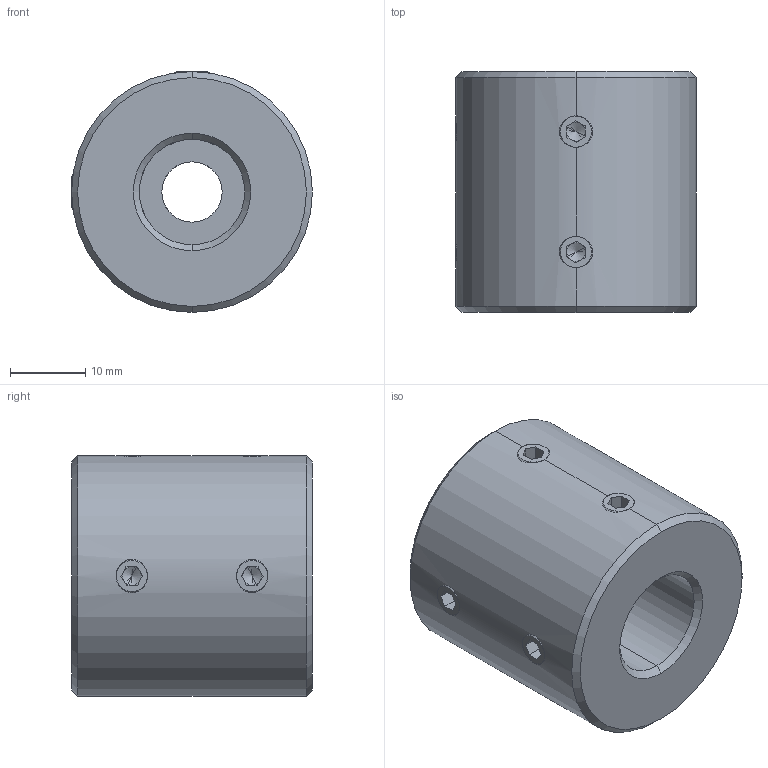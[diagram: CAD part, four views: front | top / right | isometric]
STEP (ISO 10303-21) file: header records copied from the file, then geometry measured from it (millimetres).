
FILE_DESCRIPTION (( 'STEP AP214' ), '1' );
FILE_NAME ('LL-D-D32L32-8-14½¨Ä£.STEP', '2022-07-22T11:25:24', ( '' ), ( '' ), 'SwSTEP 2.0', 'SolidWorks 2022', '' );
FILE_SCHEMA (( 'AUTOMOTIVE_DESIGN' ));
Length unit declared in the file: millimetre
Products named in the file (1): LL-D-D32L32-8-14膘耀
Bounding box: 32 x 32 x 32 mm (x, y, z)
Volume: 22188.4 mm3; surface area: 5946.5 mm2
Topology: 1 solids, 1 shells, 113 faces, 286 edges, 176 vertices
Faces by surface type: plane 59, cone 32, cylinder 22
Entity records: 3756 total; most frequent: CARTESIAN_POINT 1046, DIRECTION 558, ORIENTED_EDGE 556, EDGE_CURVE 278, AXIS2_PLACEMENT_3D 206, VERTEX_POINT 176, VECTOR 146, LINE 146
